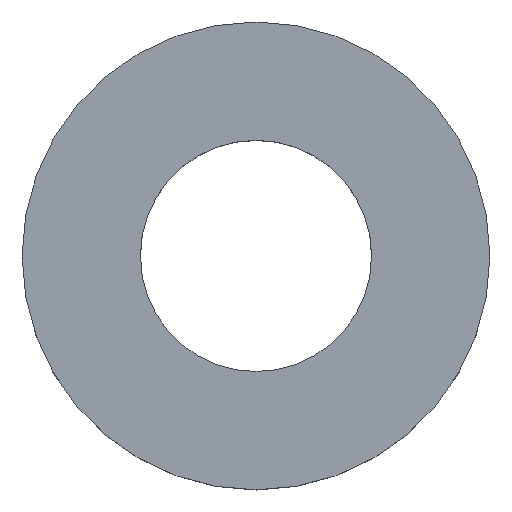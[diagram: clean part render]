
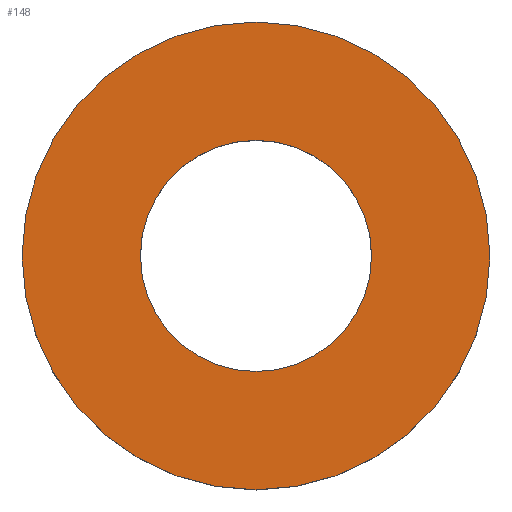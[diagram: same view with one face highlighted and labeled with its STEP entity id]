
A CAD part, top view. The second image highlights one B-rep face of the part: STEP entity #148.
In plain terms, the highlighted planar face has unit normal (0, 0, 1).
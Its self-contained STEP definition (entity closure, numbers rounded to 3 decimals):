
#61=AXIS2_PLACEMENT_3D('Circle Axis2P3D',#59,#60,$) ;
#78=AXIS2_PLACEMENT_3D('Circle Axis2P3D',#76,#77,$) ;
#124=AXIS2_PLACEMENT_3D('Plane Axis2P3D',#121,#122,#123) ;
#132=AXIS2_PLACEMENT_3D('Circle Axis2P3D',#130,#131,$) ;
#141=AXIS2_PLACEMENT_3D('Circle Axis2P3D',#139,#140,$) ;
#42=CARTESIAN_POINT('Vertex',(8.5,0.,3.)) ;
#56=CARTESIAN_POINT('Vertex',(-8.5,0.,3.)) ;
#59=CARTESIAN_POINT('Axis2P3D Location',(0.,0.,3.)) ;
#76=CARTESIAN_POINT('Axis2P3D Location',(0.,0.,3.)) ;
#121=CARTESIAN_POINT('Axis2P3D Location',(0.,0.,3.)) ;
#130=CARTESIAN_POINT('Axis2P3D Location',(0.,0.,3.)) ;
#134=CARTESIAN_POINT('Vertex',(4.2,0.,3.)) ;
#136=CARTESIAN_POINT('Vertex',(-4.2,0.,3.)) ;
#139=CARTESIAN_POINT('Axis2P3D Location',(0.,0.,3.)) ;
#60=DIRECTION('Axis2P3D Direction',(0.,0.,-1.)) ;
#77=DIRECTION('Axis2P3D Direction',(0.,0.,-1.)) ;
#122=DIRECTION('Axis2P3D Direction',(0.,0.,1.)) ;
#123=DIRECTION('Axis2P3D XDirection',(1.,0.,0.)) ;
#131=DIRECTION('Axis2P3D Direction',(0.,0.,1.)) ;
#140=DIRECTION('Axis2P3D Direction',(0.,0.,1.)) ;
#127=ORIENTED_EDGE('',*,*,#80,.F.) ;
#128=ORIENTED_EDGE('',*,*,#63,.F.) ;
#145=ORIENTED_EDGE('',*,*,#138,.F.) ;
#146=ORIENTED_EDGE('',*,*,#143,.F.) ;
#147=FACE_BOUND('',#144,.T.) ;
#148=ADVANCED_FACE('1',(#129,#147),#125,.T.) ;
#62=CIRCLE('generated circle',#61,8.5) ;
#79=CIRCLE('generated circle',#78,8.5) ;
#133=CIRCLE('generated circle',#132,4.2) ;
#142=CIRCLE('generated circle',#141,4.2) ;
#63=EDGE_CURVE('',#57,#43,#62,.T.) ;
#80=EDGE_CURVE('',#43,#57,#79,.T.) ;
#138=EDGE_CURVE('',#135,#137,#133,.T.) ;
#143=EDGE_CURVE('',#137,#135,#142,.T.) ;
#126=EDGE_LOOP('',(#127,#128)) ;
#144=EDGE_LOOP('',(#145,#146)) ;
#129=FACE_OUTER_BOUND('',#126,.T.) ;
#125=PLANE('',#124) ;
#43=VERTEX_POINT('',#42) ;
#57=VERTEX_POINT('',#56) ;
#135=VERTEX_POINT('',#134) ;
#137=VERTEX_POINT('',#136) ;
